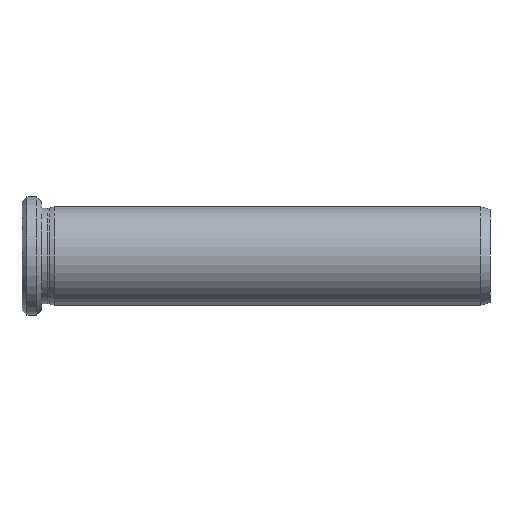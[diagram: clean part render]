
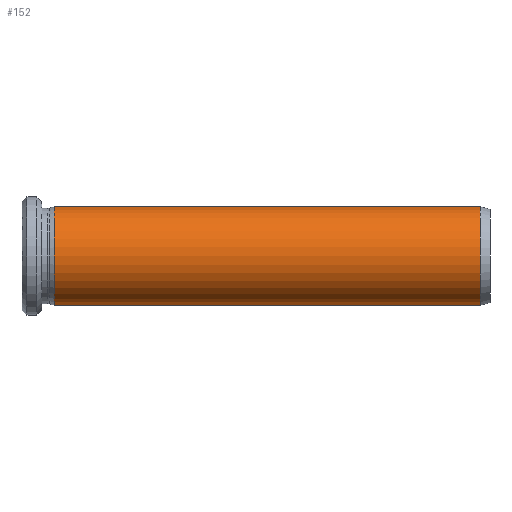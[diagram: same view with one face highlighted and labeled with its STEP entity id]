
A CAD part, front view. The second image highlights one B-rep face of the part: STEP entity #152.
In plain terms, the highlighted cylindrical face has radius 10 mm (diameter 20 mm), a partial arc.
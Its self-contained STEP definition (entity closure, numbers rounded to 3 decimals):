
#5 = CYLINDRICAL_SURFACE ( 'NONE', #464, 10. ) ;
#20 = VECTOR ( 'NONE', #389, 1000. ) ;
#26 = VERTEX_POINT ( 'NONE', #195 ) ;
#30 = LINE ( 'NONE', #727, #20 ) ;
#34 = DIRECTION ( 'NONE',  ( -1., 0., 0. ) ) ;
#42 = AXIS2_PLACEMENT_3D ( 'NONE', #269, #34, #508 ) ;
#80 = ORIENTED_EDGE ( 'NONE', *, *, #584, .T. ) ;
#90 = ORIENTED_EDGE ( 'NONE', *, *, #619, .T. ) ;
#98 = CARTESIAN_POINT ( 'NONE',  ( 73.8, 0., -10. ) ) ;
#101 = DIRECTION ( 'NONE',  ( 0., 0., 1. ) ) ;
#102 = VECTOR ( 'NONE', #239, 1000. ) ;
#131 = FACE_OUTER_BOUND ( 'NONE', #700, .T. ) ;
#150 = DIRECTION ( 'NONE',  ( -1., 0., 0. ) ) ;
#152 = ADVANCED_FACE ( 'NONE', ( #131 ), #5, .T. ) ;
#177 = VERTEX_POINT ( 'NONE', #260 ) ;
#181 = CARTESIAN_POINT ( 'NONE',  ( 73.8, 0., 10. ) ) ;
#195 = CARTESIAN_POINT ( 'NONE',  ( -12.7, 0., 10. ) ) ;
#239 = DIRECTION ( 'NONE',  ( -1., 0., 0. ) ) ;
#260 = CARTESIAN_POINT ( 'NONE',  ( -12.7, 0., -10. ) ) ;
#269 = CARTESIAN_POINT ( 'NONE',  ( -12.7, 0., 0. ) ) ;
#316 = DIRECTION ( 'NONE',  ( -1., 0., 0. ) ) ;
#320 = ORIENTED_EDGE ( 'NONE', *, *, #551, .F. ) ;
#340 = EDGE_CURVE ( 'NONE', #688, #177, #648, .T. ) ;
#383 = AXIS2_PLACEMENT_3D ( 'NONE', #493, #150, #101 ) ;
#389 = DIRECTION ( 'NONE',  ( -1., 0., 0. ) ) ;
#411 = CARTESIAN_POINT ( 'NONE',  ( 0., 0., 0. ) ) ;
#458 = VERTEX_POINT ( 'NONE', #181 ) ;
#464 = AXIS2_PLACEMENT_3D ( 'NONE', #411, #316, #555 ) ;
#493 = CARTESIAN_POINT ( 'NONE',  ( 73.8, 0., 0. ) ) ;
#508 = DIRECTION ( 'NONE',  ( 0., 0., 1. ) ) ;
#536 = ORIENTED_EDGE ( 'NONE', *, *, #340, .F. ) ;
#549 = CIRCLE ( 'NONE', #383, 10. ) ;
#551 = EDGE_CURVE ( 'NONE', #177, #26, #571, .T. ) ;
#555 = DIRECTION ( 'NONE',  ( 0., 0., 1. ) ) ;
#571 = CIRCLE ( 'NONE', #42, 10. ) ;
#584 = EDGE_CURVE ( 'NONE', #458, #26, #30, .T. ) ;
#619 = EDGE_CURVE ( 'NONE', #688, #458, #549, .T. ) ;
#648 = LINE ( 'NONE', #697, #102 ) ;
#688 = VERTEX_POINT ( 'NONE', #98 ) ;
#697 = CARTESIAN_POINT ( 'NONE',  ( 0., 0., -10. ) ) ;
#700 = EDGE_LOOP ( 'NONE', ( #536, #90, #80, #320 ) ) ;
#727 = CARTESIAN_POINT ( 'NONE',  ( 0., 0., 10. ) ) ;
